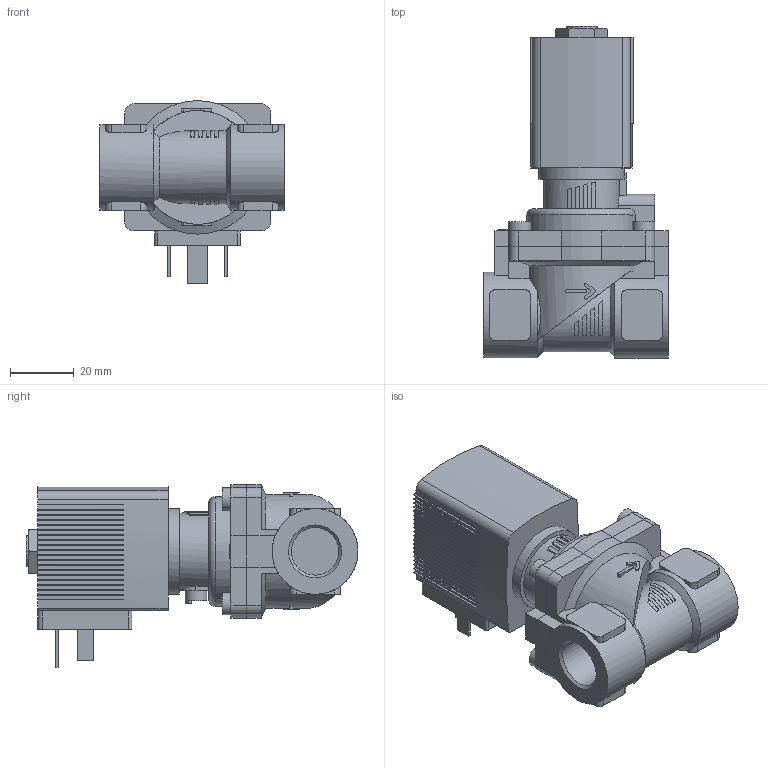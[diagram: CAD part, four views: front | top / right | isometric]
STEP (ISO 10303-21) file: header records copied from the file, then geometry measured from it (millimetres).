
FILE_DESCRIPTION(/* description */ ('STEP AP214'),/* implementation_level */ '2;1');
FILE_NAME(/* name */ '6281-303612-2_2-Way_Solenoid_Valve__Servo-assisted__General_Purpose',/* time_stamp */ '2024-05-14T15:09:07+02:00',/* author */ ('License CC BY-ND 4.0'),/* organization */ ('CADENAS'),/* preprocessor_version */ 'ST-DEVELOPER v19.3',/* originating_system */ 'PARTsolutions',/* authorisation */ ' ');
FILE_SCHEMA (('AUTOMOTIVE_DESIGN {1 0 10303 214 3 1 1}'));
Length unit declared in the file: millimetre
Products named in the file (4): 6281-303612-2/2-Way Solenoid Valve, Servo-assisted, General Purpose; 5281ev131MS2/2-Wege-Magnetventil mit Servomembran-Deckel 42 ; 6213-13G3/8MS-Gehaeuse-; AC10ex-5OO-Plan-Coil
Assembly tree (3 placements, depth 2):
  6281-303612-2/2-Way Solenoid Valve, Servo-assisted, General Purpose
    5281ev131MS2/2-Wege-Magnetventil mit Servomembran-Deckel 42 
    6213-13G3/8MS-Gehaeuse-
    AC10ex-5OO-Plan-Coil
Bounding box: 58 x 104.5 x 57.5 mm (x, y, z)
Volume: 121826.4 mm3; surface area: 28989.5 mm2
Topology: 3 solids, 3 shells, 558 faces, 1542 edges, 1018 vertices
Faces by surface type: plane 450, cylinder 92, cone 15, torus 1
Full cylindrical faces by diameter (mm): 2.013 x1, 6.8 x1, 7 x4, 9.74 x1, 14.95 x2, 27 x2
Entity records: 20507 total; most frequent: CARTESIAN_POINT 3348, ORIENTED_EDGE 3038, DIRECTION 2912, EDGE_CURVE 1519, LINE 1116, VECTOR 1116, VERTEX_POINT 1010, AXIS2_PLACEMENT_3D 898
